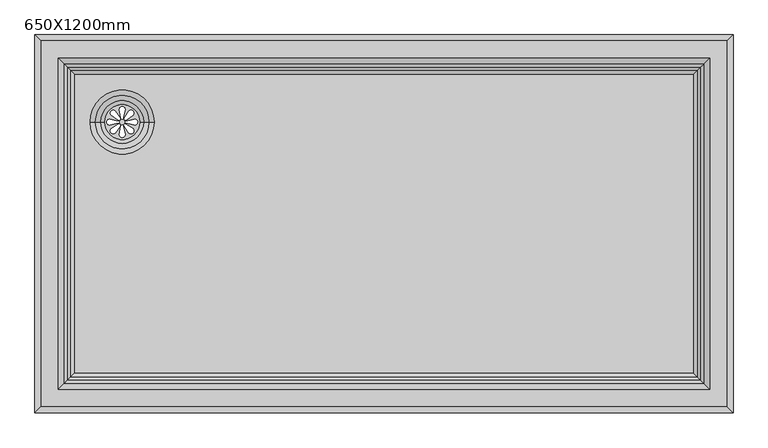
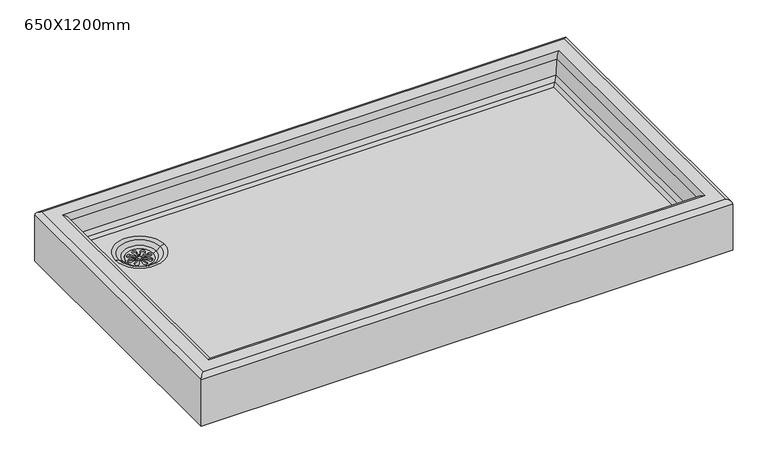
"""IFC4 building model written with IfcOpenShell, lengths in millimetres: flow terminal geometry, ARQ_PLATO_DUCHA : 650X1200mm."""

from ifc_helpers import new_model, si_unit, point, frame, frame_2d, origin, place, context, project, spatial, polyline, circle_curve, ellipse_curve, trimmed, segment, composite_curve, outline, extrude, source, transform, mapped, element, save
from ifc_brep_helpers import plane_surface, cylinder_surface, revolved_surface, advanced_brep


def flow_terminal_650x1200mm_124ab80b(model_context):
    return source(origin(), model_context, "Body", "SolidModel", [
        extrude(outline(composite_curve([segment(trimmed(circle_curve(frame_2d((-450.0, 175.0)), 30.0), [point((-480.0, 175.0))], [point((-420.0, 175.0))], False, "CARTESIAN"), True, "CONTINUOUS"), segment(trimmed(circle_curve(frame_2d((-450.0, 175.0)), 30.0), [point((-420.0, 175.0))], [point((-480.0, 175.0))], False, "CARTESIAN"), True, "CONTINUOUS")], self_intersect=False), holes=[composite_curve([segment(polyline([(-448.0437984, 182.2242832), (-445.0173347, 196.5301417)]), True, "CONTINUOUS"), segment(trimmed(circle_curve(frame_2d((-450.0, 196.5301417)), 4.9826653), [point((-445.0173347, 196.5301417))], [point((-454.9826653, 196.5301417))], True, "CARTESIAN"), True, "CONTINUOUS"), segment(polyline([(-454.9826653, 196.5301417), (-452.1435586, 182.2242832)]), True, "CONTINUOUS"), segment(trimmed(circle_curve(frame_2d((-450.0936785, 182.2242832)), 2.0498801), [point((-452.1435586, 182.2242832))], [point((-448.0437984, 182.2242832))], True, "CARTESIAN"), True, "CONTINUOUS")], self_intersect=False), composite_curve([segment(trimmed(circle_curve(frame_2d((-450.0936785, 167.7757168)), 2.0498801), [point((-448.0437984, 167.7757168))], [point((-452.1435586, 167.7757168))], True, "CARTESIAN"), True, "CONTINUOUS"), segment(polyline([(-452.1435586, 167.7757168), (-454.9826653, 153.4698583)]), True, "CONTINUOUS"), segment(trimmed(circle_curve(frame_2d((-450.0, 153.4698583)), 4.9826653), [point((-454.9826653, 153.4698583))], [point((-445.0173347, 153.4698583))], True, "CARTESIAN"), True, "CONTINUOUS"), segment(polyline([(-445.0173347, 153.4698583), (-448.0437984, 167.7757168)]), True, "CONTINUOUS")], self_intersect=False), composite_curve([segment(polyline([(-457.2242832, 176.9562016), (-471.5301417, 179.9826653)]), True, "CONTINUOUS"), segment(trimmed(circle_curve(frame_2d((-471.5301417, 175.0)), 4.9826653), [point((-471.5301417, 179.9826653))], [point((-471.5301417, 170.0173347))], True, "CARTESIAN"), True, "CONTINUOUS"), segment(polyline([(-471.5301417, 170.0173347), (-457.2242832, 172.8564414)]), True, "CONTINUOUS"), segment(trimmed(circle_curve(frame_2d((-457.2242832, 174.9063215)), 2.0498801), [point((-457.2242832, 172.8564414))], [point((-457.2242832, 176.9562016))], True, "CARTESIAN"), True, "CONTINUOUS")], self_intersect=False), composite_curve([segment(trimmed(circle_curve(frame_2d((-442.7757168, 174.9063215)), 2.0498801), [point((-442.7757168, 176.9562016))], [point((-442.7757168, 172.8564414))], True, "CARTESIAN"), True, "CONTINUOUS"), segment(polyline([(-442.7757168, 172.8564414), (-428.4698583, 170.0173347)]), True, "CONTINUOUS"), segment(trimmed(circle_curve(frame_2d((-428.4698583, 175.0)), 4.9826653), [point((-428.4698583, 170.0173347))], [point((-428.4698583, 179.9826653))], True, "CARTESIAN"), True, "CONTINUOUS"), segment(polyline([(-428.4698583, 179.9826653), (-442.7757168, 176.9562016)]), True, "CONTINUOUS")], self_intersect=False), composite_curve([segment(polyline([(-453.7250963, 181.4915831), (-461.7008327, 193.7473856)]), True, "CONTINUOUS"), segment(trimmed(circle_curve(frame_2d((-465.2241092, 190.2241092)), 4.9826653), [point((-461.7008327, 193.7473856))], [point((-468.7473856, 186.7008327))], True, "CARTESIAN"), True, "CONTINUOUS"), segment(polyline([(-468.7473856, 186.7008327), (-456.6240645, 178.5926149)]), True, "CONTINUOUS"), segment(trimmed(circle_curve(frame_2d((-455.1745804, 180.042099)), 2.0498801), [point((-456.6240645, 178.5926149))], [point((-453.7250963, 181.4915831))], True, "CARTESIAN"), True, "CONTINUOUS")], self_intersect=False), composite_curve([segment(trimmed(circle_curve(frame_2d((-444.957901, 169.8254196)), 2.0498801), [point((-443.5084169, 171.2749037))], [point((-446.4073851, 168.3759355))], True, "CARTESIAN"), True, "CONTINUOUS"), segment(polyline([(-446.4073851, 168.3759355), (-438.2991673, 156.2526144)]), True, "CONTINUOUS"), segment(trimmed(circle_curve(frame_2d((-434.7758908, 159.7758908)), 4.9826653), [point((-438.2991673, 156.2526144))], [point((-431.2526144, 163.2991673))], True, "CARTESIAN"), True, "CONTINUOUS"), segment(polyline([(-431.2526144, 163.2991673), (-443.5084169, 171.2749037)]), True, "CONTINUOUS")], self_intersect=False), composite_curve([segment(polyline([(-456.4915831, 171.2749037), (-468.7473856, 163.2991673)]), True, "CONTINUOUS"), segment(trimmed(circle_curve(frame_2d((-465.2241092, 159.7758908)), 4.9826653), [point((-468.7473856, 163.2991673))], [point((-461.7008327, 156.2526144))], True, "CARTESIAN"), True, "CONTINUOUS"), segment(polyline([(-461.7008327, 156.2526144), (-453.5926149, 168.3759355)]), True, "CONTINUOUS"), segment(trimmed(circle_curve(frame_2d((-455.042099, 169.8254196)), 2.0498801), [point((-453.5926149, 168.3759355))], [point((-456.4915831, 171.2749037))], True, "CARTESIAN"), True, "CONTINUOUS")], self_intersect=False), composite_curve([segment(trimmed(circle_curve(frame_2d((-444.8254196, 180.042099)), 2.0498801), [point((-446.2749037, 181.4915831))], [point((-443.3759355, 178.5926149))], True, "CARTESIAN"), True, "CONTINUOUS"), segment(polyline([(-443.3759355, 178.5926149), (-431.2526144, 186.7008327)]), True, "CONTINUOUS"), segment(trimmed(circle_curve(frame_2d((-434.7758908, 190.2241092)), 4.9826653), [point((-431.2526144, 186.7008327))], [point((-438.2991673, 193.7473856))], True, "CARTESIAN"), True, "CONTINUOUS"), segment(polyline([(-438.2991673, 193.7473856), (-446.2749037, 181.4915831)]), True, "CONTINUOUS")], self_intersect=False)]), frame((0.0, 0.0, 43.429774), z_axis=(0.0, 0.0, 1.0), x_axis=(1.0, 0.0, 0.0)), (0.0, 0.0, 1.0), 3.0),
        advanced_brep(
        [(600.0, 325.0, 0.0), (600.0, 325.0, 110.0), (600.0, -325.0, 110.0), (600.0, -325.0, 0.0), (538.5950747, 263.5950747, 66.1486916), (532.446383, 257.446383, 60.0), (532.446383, -257.446383, 60.0), (538.5950747, -263.5950747, 66.1486916), (544.1490941, -269.1490941, 76.8178637), (544.1490941, 269.1490941, 76.8178637), (550.0, -275.0, 110.0), (550.0, 275.0, 110.0), (560.0, -285.0, 120.0), (560.0, 285.0, 120.0), (590.0, 315.0, 120.0), (590.0, -315.0, 120.0), (-600.0, -325.0, 110.0), (-600.0, -325.0, 0.0), (-532.446383, -257.446383, 60.0), (-538.5950747, -263.5950747, 66.1486916), (-544.1490941, -269.1490941, 76.8178637), (-550.0, -275.0, 110.0), (-560.0, -285.0, 120.0), (-590.0, -315.0, 120.0), (-600.0, 325.0, 110.0), (-600.0, 325.0, 0.0), (-532.446383, 257.446383, 60.0), (-538.5950747, 263.5950747, 66.1486916), (-544.1490941, 269.1490941, 76.8178637), (-550.0, 275.0, 110.0), (-560.0, 285.0, 120.0), (-590.0, 315.0, 120.0), (-480.0, 175.0, 0.0), (-420.0, 175.0, 0.0), (-505.0, 175.0, 60.0), (-395.0, 175.0, 60.0), (-420.0, 175.0, 46.429774), (-480.0, 175.0, 46.429774), (-413.3333333, 175.0, 50.0), (-486.6666667, 175.0, 50.0), (-404.0, 175.0, 57.0), (-496.0, 175.0, 57.0)],
        [
            (0, 1),
            (1, 2),
            (2, 3),
            (3, 0),
            (4, 5),
            (5, 6),
            (6, 7),
            (7, 4),
            (7, 8, ellipse_curve(frame((524.452939, -249.452939, 80.2908273), z_axis=(-0.7071067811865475, -0.7071067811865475, 0.0), x_axis=(0.7071067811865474, -0.7071067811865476, 0.0)), 28.2842712, 20.0)),
            (8, 9),
            (9, 4, ellipse_curve(frame((524.452939, 249.452939, 80.2908273), z_axis=(-0.7071067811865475, 0.7071067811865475, 0.0), x_axis=(-0.7071067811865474, -0.7071067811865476, 0.0)), 28.2842712, 20.0)),
            (8, 10),
            (10, 11),
            (11, 9),
            (10, 12, ellipse_curve(frame((560.0, -285.0, 110.0), z_axis=(0.7071067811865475, 0.7071067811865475, 0.0), x_axis=(-0.7071067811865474, 0.7071067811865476, 0.0)), 14.1421356, 10.0)),
            (12, 13),
            (13, 11, ellipse_curve(frame((560.0, 285.0, 110.0), z_axis=(0.7071067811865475, -0.7071067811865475, 0.0), x_axis=(0.7071067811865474, 0.7071067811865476, 0.0)), 14.1421356, 10.0)),
            (1, 14, ellipse_curve(frame((590.0, 315.0, 110.0), z_axis=(0.7071067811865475, -0.7071067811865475, 0.0), x_axis=(0.7071067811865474, 0.7071067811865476, 0.0)), 14.1421356, 10.0)),
            (14, 15),
            (15, 2, ellipse_curve(frame((590.0, -315.0, 110.0), z_axis=(0.7071067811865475, 0.7071067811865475, 0.0), x_axis=(-0.7071067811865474, 0.7071067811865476, 0.0)), 14.1421356, 10.0)),
            (2, 16),
            (16, 17),
            (17, 3),
            (6, 18),
            (18, 19),
            (19, 7),
            (19, 20, ellipse_curve(frame((-524.452939, -249.452939, 80.2908273), z_axis=(-0.7071067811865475, 0.7071067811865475, 0.0), x_axis=(-0.7071067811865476, -0.7071067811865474, 0.0)), 28.2842712, 20.0)),
            (20, 8),
            (20, 21),
            (21, 10),
            (21, 22, ellipse_curve(frame((-560.0, -285.0, 110.0), z_axis=(0.7071067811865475, -0.7071067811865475, 0.0), x_axis=(0.7071067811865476, 0.7071067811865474, 0.0)), 14.1421356, 10.0)),
            (22, 12),
            (15, 23),
            (23, 16, ellipse_curve(frame((-590.0, -315.0, 110.0), z_axis=(0.7071067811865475, -0.7071067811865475, 0.0), x_axis=(0.7071067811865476, 0.7071067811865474, 0.0)), 14.1421356, 10.0)),
            (16, 24),
            (24, 25),
            (25, 17),
            (18, 26),
            (26, 27),
            (27, 19),
            (27, 28, ellipse_curve(frame((-524.452939, 249.452939, 80.2908273), z_axis=(0.7071067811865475, 0.7071067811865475, 0.0), x_axis=(-0.7071067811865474, 0.7071067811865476, 0.0)), 28.2842712, 20.0)),
            (28, 20),
            (28, 29),
            (29, 21),
            (29, 30, ellipse_curve(frame((-560.0, 285.0, 110.0), z_axis=(-0.7071067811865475, -0.7071067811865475, 0.0), x_axis=(0.7071067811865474, -0.7071067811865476, 0.0)), 14.1421356, 10.0)),
            (30, 22),
            (23, 31),
            (31, 24, ellipse_curve(frame((-590.0, 315.0, 110.0), z_axis=(-0.7071067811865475, -0.7071067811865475, 0.0), x_axis=(0.7071067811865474, -0.7071067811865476, 0.0)), 14.1421356, 10.0)),
            (0, 25),
            (24, 1),
            (32, 33, circle_curve(frame((-450.0, 175.0, 0.0), z_axis=(0.0, 0.0, 1.0), x_axis=(1.0, 0.0, 0.0)), 30.0)),
            (33, 32, circle_curve(frame((-450.0, 175.0, 0.0), z_axis=(0.0, 0.0, 1.0), x_axis=(1.0, 0.0, 0.0)), 30.0)),
            (4, 27),
            (26, 5),
            (9, 28),
            (11, 29),
            (13, 30),
            (14, 31),
            (34, 35, circle_curve(frame((-450.0, 175.0, 60.0), z_axis=(0.0, 0.0, -1.0), x_axis=(1.0, 0.0, 0.0)), 55.0)),
            (35, 34, circle_curve(frame((-450.0, 175.0, 60.0), z_axis=(0.0, 0.0, -1.0), x_axis=(1.0, 0.0, 0.0)), 55.0)),
            (33, 36),
            (36, 37, circle_curve(frame((-450.0, 175.0, 46.429774), z_axis=(0.0, 0.0, 1.0), x_axis=(1.0, 0.0, 0.0)), 30.0)),
            (37, 32),
            (37, 36, circle_curve(frame((-450.0, 175.0, 46.429774), z_axis=(0.0, 0.0, 1.0), x_axis=(1.0, 0.0, 0.0)), 30.0)),
            (38, 39, circle_curve(frame((-450.0, 175.0, 50.0), z_axis=(0.0, 0.0, 1.0), x_axis=(1.0, 0.0, 0.0)), 36.6666667)),
            (39, 37, circle_curve(frame((-471.6666667, 175.0, 70.0), z_axis=(0.0, -1.0, 0.0), x_axis=(-1.0, 0.0, 0.0)), 25.0)),
            (36, 38, circle_curve(frame((-428.3333333, 175.0, 70.0), z_axis=(0.0, -1.0, 0.0), x_axis=(1.0, 0.0, 0.0)), 25.0)),
            (39, 38, circle_curve(frame((-450.0, 175.0, 50.0), z_axis=(0.0, 0.0, 1.0), x_axis=(1.0, 0.0, 0.0)), 36.6666667)),
            (38, 40),
            (40, 41, circle_curve(frame((-450.0, 175.0, 57.0), z_axis=(0.0, 0.0, 1.0), x_axis=(1.0, 0.0, 0.0)), 46.0)),
            (41, 39),
            (41, 40, circle_curve(frame((-450.0, 175.0, 57.0), z_axis=(0.0, 0.0, 1.0), x_axis=(1.0, 0.0, 0.0)), 46.0)),
            (40, 35, circle_curve(frame((-395.0, 175.0, 45.0), z_axis=(0.0, 1.0, 0.0), x_axis=(1.0, 0.0, 0.0)), 15.0)),
            (34, 41, circle_curve(frame((-505.0, 175.0, 45.0), z_axis=(0.0, 1.0, 0.0), x_axis=(-1.0, 0.0, 0.0)), 15.0)),
        ],
        [
            plane_surface(frame((600.0, 325.0, 110.0), z_axis=(1.0, 0.0, 0.0), x_axis=(0.0, -1.0, 0.0))),
            plane_surface(frame((532.446383, 257.446383, 60.0), z_axis=(-0.7071067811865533, 0.0, 0.7071067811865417), x_axis=(0.0, -1.0, 0.0))),
            revolved_surface(polyline([(544.452939, -269.45293896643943, 80.2908273), (544.452939, 269.4529389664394, 80.2908273)]), (524.452939, 325.0, 80.2908273), (0.0, -1.0, 0.0)),
            plane_surface(frame((544.1490941, 269.1490941, 76.8178637), z_axis=(-0.9848077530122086, 0.0, 0.17364817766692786), x_axis=(0.0, -1.0, 0.0))),
            cylinder_surface(frame((560.0, 325.0, 110.0), z_axis=(0.0, 1.0, 0.0), x_axis=(1.0, 0.0, 0.0)), 10.0),
            cylinder_surface(frame((590.0, 325.0, 110.0), z_axis=(0.0, 1.0, 0.0), x_axis=(1.0, 0.0, 0.0)), 10.0),
            plane_surface(frame((600.0, -325.0, 110.0), z_axis=(0.0, -1.0, 0.0), x_axis=(-1.0, 0.0, 0.0))),
            plane_surface(frame((532.446383, -257.446383, 60.0), z_axis=(0.0, 0.7071067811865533, 0.7071067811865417), x_axis=(-1.0, 0.0, 0.0))),
            revolved_surface(polyline([(-544.4529389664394, -269.452939, 80.2908273), (544.4529389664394, -269.452939, 80.2908273)]), (600.0, -249.452939, 80.2908273), (-1.0, 0.0, 0.0)),
            plane_surface(frame((544.1490941, -269.1490941, 76.8178637), z_axis=(0.0, 0.9848077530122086, 0.17364817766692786), x_axis=(-1.0, 0.0, 0.0))),
            cylinder_surface(frame((600.0, -285.0, 110.0), z_axis=(1.0, 0.0, 0.0), x_axis=(0.0, -1.0, 0.0)), 10.0),
            cylinder_surface(frame((600.0, -315.0, 110.0), z_axis=(1.0, 0.0, 0.0), x_axis=(0.0, -1.0, 0.0)), 10.0),
            plane_surface(frame((-600.0, -325.0, 110.0), z_axis=(-1.0, 0.0, 0.0), x_axis=(0.0, 1.0, 0.0))),
            plane_surface(frame((-532.446383, -257.446383, 60.0), z_axis=(0.7071067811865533, 0.0, 0.7071067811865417), x_axis=(0.0, 1.0, 0.0))),
            revolved_surface(polyline([(-544.452939, 269.45293896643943, 80.2908273), (-544.452939, -269.4529389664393, 80.2908273)]), (-524.452939, -325.0, 80.2908273), (0.0, 1.0, 0.0)),
            plane_surface(frame((-544.1490941, -269.1490941, 76.8178637), z_axis=(0.9848077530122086, 0.0, 0.17364817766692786), x_axis=(0.0, 1.0, 0.0))),
            cylinder_surface(frame((-560.0, -325.0, 110.0), z_axis=(0.0, -1.0, 0.0), x_axis=(-1.0, 0.0, 0.0)), 10.0),
            cylinder_surface(frame((-590.0, -325.0, 110.0), z_axis=(0.0, -1.0, 0.0), x_axis=(-1.0, 0.0, 0.0)), 10.0),
            plane_surface(frame((-600.0, 325.0, 110.0), z_axis=(0.0, 1.0, 0.0), x_axis=(1.0, 0.0, 0.0))),
            plane_surface(frame((-600.0, 325.0, 0.0), z_axis=(0.0, 0.0, -1.0), x_axis=(1.0, 0.0, 0.0))),
            plane_surface(frame((-532.446383, 257.446383, 60.0), z_axis=(0.0, -0.7071067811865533, 0.7071067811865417), x_axis=(1.0, 0.0, 0.0))),
            revolved_surface(polyline([(544.4529389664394, 269.452939, 80.2908273), (-544.4529389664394, 269.452939, 80.2908273)]), (-600.0, 249.452939, 80.2908273), (1.0, 0.0, 0.0)),
            plane_surface(frame((-544.1490941, 269.1490941, 76.8178637), z_axis=(0.0, -0.9848077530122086, 0.17364817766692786), x_axis=(1.0, 0.0, 0.0))),
            cylinder_surface(frame((-600.0, 285.0, 110.0), z_axis=(-1.0, 0.0, 0.0), x_axis=(0.0, 1.0, 0.0)), 10.0),
            plane_surface(frame((-560.0, 285.0, 120.0), z_axis=(0.0, 0.0, 1.0), x_axis=(1.0, 0.0, 0.0))),
            cylinder_surface(frame((-600.0, 315.0, 110.0), z_axis=(-1.0, 0.0, 0.0), x_axis=(0.0, 1.0, 0.0)), 10.0),
            plane_surface(frame((-420.0, 175.0, 60.0), z_axis=(0.0, 0.0, 1.0), x_axis=(0.0, -1.0, 0.0))),
            revolved_surface(polyline([(-420.0, 175.0, 0.0), (-420.0, 175.0, 46.429774)]), (-450.0, 175.0, 0.0), (0.0, 0.0, -1.0)),
            revolved_surface(trimmed(ellipse_curve(frame((-428.3333333, 175.0, 70.0), z_axis=(0.0, 1.0, 0.0), x_axis=(1.0, 0.0, 0.0)), 25.0, 25.0), [point((-413.3333333, 175.0, 50.0))], [point((-428.3333333, 175.0, 45.0))], True, "CARTESIAN"), (-450.0, 175.0, -508.0), (0.0, 0.0, 1.0)),
            revolved_surface(polyline([(-404.0, 175.0, 57.0), (-413.3333333, 175.0, 50.0)]), (-450.0, 175.0, -508.0), (0.0, 0.0, 1.0)),
            revolved_surface(trimmed(ellipse_curve(frame((-395.0, 175.0, 45.0), z_axis=(0.0, -1.0, 0.0), x_axis=(1.0, 0.0, 0.0)), 15.0, 15.0), [point((-395.0, 175.0, 60.0))], [point((-404.0, 175.0, 57.0))], True, "CARTESIAN"), (-450.0, 175.0, -508.0), (0.0, 0.0, 1.0)),
        ],
        [
            (0, [[1, 2, 3, 4]]),
            (1, [[5, 6, 7, 8]]),
            (2, [[-8, 9, 10, 11]]),
            (3, [[-10, 12, 13, 14]]),
            (4, [[-13, 15, 16, 17]]),
            (5, [[-2, 18, 19, 20]]),
            (6, [[-3, 21, 22, 23]]),
            (7, [[-7, 24, 25, 26]]),
            (8, [[-9, -26, 27, 28]]),
            (9, [[-12, -28, 29, 30]]),
            (10, [[-15, -30, 31, 32]]),
            (11, [[-20, 33, 34, -21]]),
            (12, [[-22, 35, 36, 37]]),
            (13, [[-25, 38, 39, 40]]),
            (14, [[-27, -40, 41, 42]]),
            (15, [[-29, -42, 43, 44]]),
            (16, [[-31, -44, 45, 46]]),
            (17, [[-34, 47, 48, -35]]),
            (18, [[-1, 49, -36, 50]]),
            (19, [[-4, -23, -37, -49], [51, 52]]),
            (20, [[-5, 53, -39, 54]]),
            (21, [[-11, 55, -41, -53]]),
            (22, [[-14, 56, -43, -55]]),
            (23, [[-17, 57, -45, -56]]),
            (24, [[-19, 58, -47, -33], [-16, -32, -46, -57]]),
            (25, [[-18, -50, -48, -58]]),
            (26, [[-6, -54, -38, -24], [59, 60]]),
            (27, [[-52, 61, 62, 63]]),
            (27, [[-51, -63, 64, -61]]),
            (28, [[65, 66, -62, 67]]),
            (28, [[68, -67, -64, -66]]),
            (29, [[-65, 69, 70, 71]]),
            (29, [[-68, -71, 72, -69]]),
            (30, [[-70, 73, -59, 74]]),
            (30, [[-72, -74, -60, -73]]),
        ],
    ),
    ])


if __name__ == "__main__":
    model = new_model("IFC4")
    model_context = context("Model", 3, world=origin())
    ifc_project = project(units=[si_unit("LENGTHUNIT", "METRE", prefix="MILLI")], contexts=[model_context])
    site = spatial("IfcSite", under=ifc_project)
    building = spatial("IfcBuilding", under=site)
    placement = place(None, origin())
    flow_terminal_650x1200mm_shape = flow_terminal_650x1200mm_124ab80b(model_context)
    element("IfcFlowTerminal", 1, ObjectType="ARQ_PLATO_DUCHA : 650X1200mm", at=placement, inside=building, context=model_context, shape_type="MappedRepresentation", body=[
        mapped(flow_terminal_650x1200mm_shape, transform((0.0, 0.0, 0.0), x_axis=(1.0, 0.0, 0.0), y_axis=(0.0, 1.0, 0.0), z_axis=(0.0, 0.0, 1.0))),
    ])
    save(model, "model.ifc")
